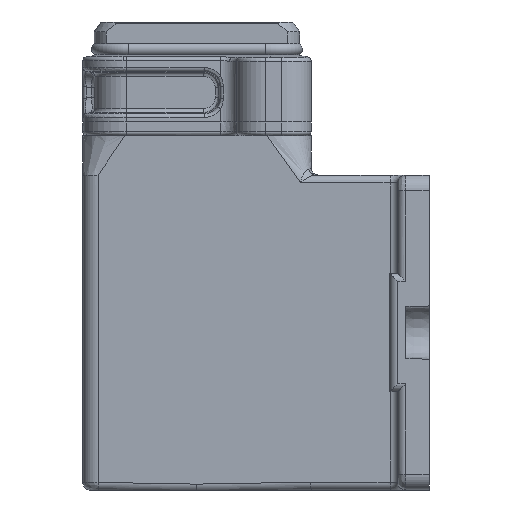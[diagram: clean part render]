
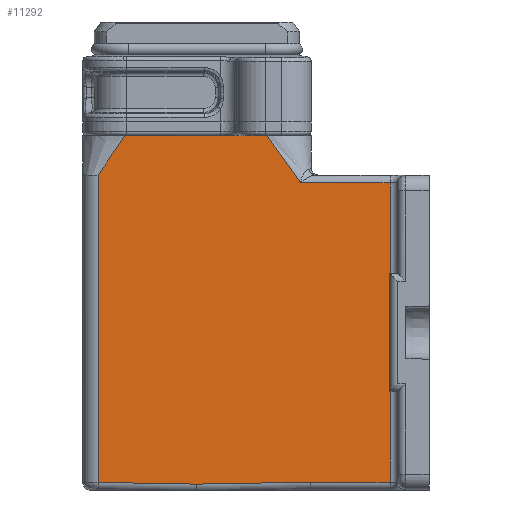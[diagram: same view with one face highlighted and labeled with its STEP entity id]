
A CAD part, left-side view. The second image highlights one B-rep face of the part: STEP entity #11292.
In plain terms, the highlighted planar face has unit normal (-1, 0.026, 0).
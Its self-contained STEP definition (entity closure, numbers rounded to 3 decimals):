
#7551=(
BOUNDED_CURVE()
B_SPLINE_CURVE(3,(#40258,#40259,#40260,#40261,#40262,#40263,#40264,#40265,
#40266,#40267),.UNSPECIFIED.,.F.,.F.)
B_SPLINE_CURVE_WITH_KNOTS((4,3,3,4),(0.,0.16,0.44,1.),.UNSPECIFIED.)
CURVE()
GEOMETRIC_REPRESENTATION_ITEM()
RATIONAL_B_SPLINE_CURVE((1.,1.,1.,1.,1.,1.,1.,1.,1.,1.))
REPRESENTATION_ITEM('')
);
#7552=(
BOUNDED_CURVE()
B_SPLINE_CURVE(3,(#40269,#40270,#40271,#40272,#40273,#40274,#40275,#40276,
#40277,#40278),.UNSPECIFIED.,.F.,.F.)
B_SPLINE_CURVE_WITH_KNOTS((4,3,3,4),(0.,0.56,0.84,1.),.UNSPECIFIED.)
CURVE()
GEOMETRIC_REPRESENTATION_ITEM()
RATIONAL_B_SPLINE_CURVE((1.,1.,1.,1.,1.,1.,1.,1.,1.,1.))
REPRESENTATION_ITEM('')
);
#7577=LINE('',#31891,#9098);
#7747=LINE('',#32644,#9268);
#8719=LINE('',#40251,#10240);
#8720=LINE('',#40254,#10241);
#8721=LINE('',#40256,#10242);
#8722=LINE('',#40268,#10243);
#8723=LINE('',#40280,#10244);
#8724=LINE('',#40282,#10245);
#8725=LINE('',#40284,#10246);
#8726=LINE('',#40286,#10247);
#8727=LINE('',#40288,#10248);
#8728=LINE('',#40290,#10249);
#8729=LINE('',#40292,#10250);
#9098=VECTOR('',#26984,1.);
#9268=VECTOR('',#27352,1.);
#10240=VECTOR('',#30450,1.);
#10241=VECTOR('',#30451,1.);
#10242=VECTOR('',#30452,1.);
#10243=VECTOR('',#30453,1.);
#10244=VECTOR('',#30454,1.);
#10245=VECTOR('',#30455,1.);
#10246=VECTOR('',#30456,1.);
#10247=VECTOR('',#30457,1.);
#10248=VECTOR('',#30458,1.);
#10249=VECTOR('',#30459,1.);
#10250=VECTOR('',#30460,1.);
#11292=ADVANCED_FACE('',(#12771),#12000,.T.);
#12000=PLANE('',#26430);
#12771=FACE_OUTER_BOUND('',#13872,.T.);
#13872=EDGE_LOOP('',(#17796,#17797,#17798,#17799,#17800,#17801,#17802,#17803,
#17804,#17805,#17806,#17807,#17808,#17809,#17810));
#17796=ORIENTED_EDGE('',*,*,#22955,.F.);
#17797=ORIENTED_EDGE('',*,*,#22956,.T.);
#17798=ORIENTED_EDGE('',*,*,#22957,.T.);
#17799=ORIENTED_EDGE('',*,*,#22958,.T.);
#17800=ORIENTED_EDGE('',*,*,#21335,.T.);
#17801=ORIENTED_EDGE('',*,*,#22959,.T.);
#17802=ORIENTED_EDGE('',*,*,#21061,.T.);
#17803=ORIENTED_EDGE('',*,*,#22960,.T.);
#17804=ORIENTED_EDGE('',*,*,#22961,.T.);
#17805=ORIENTED_EDGE('',*,*,#22962,.T.);
#17806=ORIENTED_EDGE('',*,*,#22963,.T.);
#17807=ORIENTED_EDGE('',*,*,#22964,.T.);
#17808=ORIENTED_EDGE('',*,*,#22965,.T.);
#17809=ORIENTED_EDGE('',*,*,#22966,.T.);
#17810=ORIENTED_EDGE('',*,*,#22967,.T.);
#19440=VERTEX_POINT('',#31890);
#19441=VERTEX_POINT('',#31892);
#19672=VERTEX_POINT('',#32645);
#19673=VERTEX_POINT('',#32646);
#20710=VERTEX_POINT('',#40252);
#20711=VERTEX_POINT('',#40253);
#20712=VERTEX_POINT('',#40255);
#20713=VERTEX_POINT('',#40257);
#20714=VERTEX_POINT('',#40279);
#20715=VERTEX_POINT('',#40281);
#20716=VERTEX_POINT('',#40283);
#20717=VERTEX_POINT('',#40285);
#20718=VERTEX_POINT('',#40287);
#20719=VERTEX_POINT('',#40289);
#20720=VERTEX_POINT('',#40291);
#21061=EDGE_CURVE('',#19441,#19440,#7577,.T.);
#21335=EDGE_CURVE('',#19672,#19673,#7747,.T.);
#22955=EDGE_CURVE('',#20710,#20711,#8719,.T.);
#22956=EDGE_CURVE('',#20710,#20712,#8720,.T.);
#22957=EDGE_CURVE('',#20712,#20713,#8721,.T.);
#22958=EDGE_CURVE('',#20713,#19672,#7551,.T.);
#22959=EDGE_CURVE('',#19673,#19441,#8722,.T.);
#22960=EDGE_CURVE('',#19440,#20714,#7552,.T.);
#22961=EDGE_CURVE('',#20714,#20715,#8723,.T.);
#22962=EDGE_CURVE('',#20715,#20716,#8724,.T.);
#22963=EDGE_CURVE('',#20716,#20717,#8725,.T.);
#22964=EDGE_CURVE('',#20717,#20718,#8726,.T.);
#22965=EDGE_CURVE('',#20718,#20719,#8727,.T.);
#22966=EDGE_CURVE('',#20719,#20720,#8728,.T.);
#22967=EDGE_CURVE('',#20720,#20711,#8729,.T.);
#26430=AXIS2_PLACEMENT_3D('',#40293,#30461,#30462);
#26984=DIRECTION('',(0.026,1.,0.));
#27352=DIRECTION('',(0.026,1.,0.));
#30450=DIRECTION('',(0.026,1.,0.));
#30451=DIRECTION('',(0.,0.,1.));
#30452=DIRECTION('',(0.026,1.,0.));
#30453=DIRECTION('',(0.026,1.,0.));
#30454=DIRECTION('',(0.,0.,-1.));
#30455=DIRECTION('',(-0.026,-1.,-0.017));
#30456=DIRECTION('',(-0.026,-1.,0.017));
#30457=DIRECTION('',(-0.026,-1.,0.));
#30458=DIRECTION('',(0.,0.,1.));
#30459=DIRECTION('',(0.026,1.,0.));
#30460=DIRECTION('',(0.,0.,1.));
#30461=DIRECTION('',(-1.,0.026,0.));
#30462=DIRECTION('',(-0.026,-1.,0.));
#31890=CARTESIAN_POINT('',(-76.786,18.288,0.));
#31891=CARTESIAN_POINT('',(-78.6,-51.,0.));
#31892=CARTESIAN_POINT('',(-76.906,13.676,0.));
#32644=CARTESIAN_POINT('',(-78.6,-51.,0.));
#32645=CARTESIAN_POINT('',(-77.728,-17.712,0.));
#32646=CARTESIAN_POINT('',(-77.473,-7.951,0.));
#40251=CARTESIAN_POINT('',(-78.6,-51.,-35.));
#40252=CARTESIAN_POINT('',(-78.549,-49.052,-35.));
#40253=CARTESIAN_POINT('',(-78.548,-49.,-35.));
#40254=CARTESIAN_POINT('',(-78.549,-49.052,-10.));
#40255=CARTESIAN_POINT('',(-78.549,-49.052,-12.));
#40256=CARTESIAN_POINT('',(-78.6,-51.,-12.));
#40257=CARTESIAN_POINT('',(-77.954,-26.332,-12.));
#40258=CARTESIAN_POINT('',(-78.024,-29.,-15.714));
#40259=CARTESIAN_POINT('',(-77.988,-27.632,-13.81));
#40260=CARTESIAN_POINT('',(-77.952,-26.264,-11.905));
#40261=CARTESIAN_POINT('',(-77.916,-24.895,-10.));
#40262=CARTESIAN_POINT('',(-77.854,-22.501,-6.667));
#40263=CARTESIAN_POINT('',(-77.791,-20.106,-3.333));
#40264=CARTESIAN_POINT('',(-77.728,-17.712,0.));
#40265=CARTESIAN_POINT('',(-77.603,-12.923,6.667));
#40266=CARTESIAN_POINT('',(-77.478,-8.134,13.333));
#40267=CARTESIAN_POINT('',(-77.352,-3.346,20.));
#40268=CARTESIAN_POINT('',(-78.6,-51.,0.));
#40269=CARTESIAN_POINT('',(-77.143,4.654,20.));
#40270=CARTESIAN_POINT('',(-77.024,9.199,13.333));
#40271=CARTESIAN_POINT('',(-76.905,13.743,6.667));
#40272=CARTESIAN_POINT('',(-76.786,18.288,0.));
#40273=CARTESIAN_POINT('',(-76.726,20.56,-3.333));
#40274=CARTESIAN_POINT('',(-76.667,22.832,-6.667));
#40275=CARTESIAN_POINT('',(-76.607,25.105,-10.));
#40276=CARTESIAN_POINT('',(-76.573,26.403,-11.905));
#40277=CARTESIAN_POINT('',(-76.539,27.702,-13.81));
#40278=CARTESIAN_POINT('',(-76.505,29.,-15.714));
#40279=CARTESIAN_POINT('',(-76.607,25.105,-10.));
#40280=CARTESIAN_POINT('',(-76.607,25.105,-90.));
#40281=CARTESIAN_POINT('',(-76.607,25.105,-88.069));
#40282=CARTESIAN_POINT('',(-77.265,-0.035,-88.507));
#40283=CARTESIAN_POINT('',(-77.263,0.052,-88.506));
#40284=CARTESIAN_POINT('',(-78.023,-28.965,-87.999));
#40285=CARTESIAN_POINT('',(-78.022,-28.93,-88.));
#40286=CARTESIAN_POINT('',(-78.6,-51.,-88.));
#40287=CARTESIAN_POINT('',(-78.549,-49.052,-88.));
#40288=CARTESIAN_POINT('',(-78.549,-49.052,-65.));
#40289=CARTESIAN_POINT('',(-78.549,-49.052,-65.));
#40290=CARTESIAN_POINT('',(-78.6,-51.,-65.));
#40291=CARTESIAN_POINT('',(-78.548,-49.,-65.));
#40292=CARTESIAN_POINT('',(-78.548,-49.,-90.));
#40293=CARTESIAN_POINT('',(-78.6,-51.,-90.));
